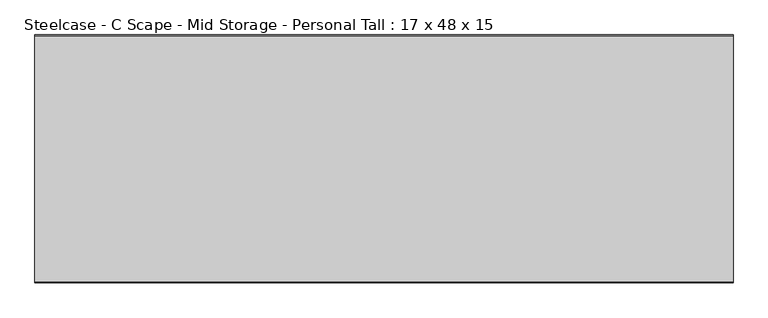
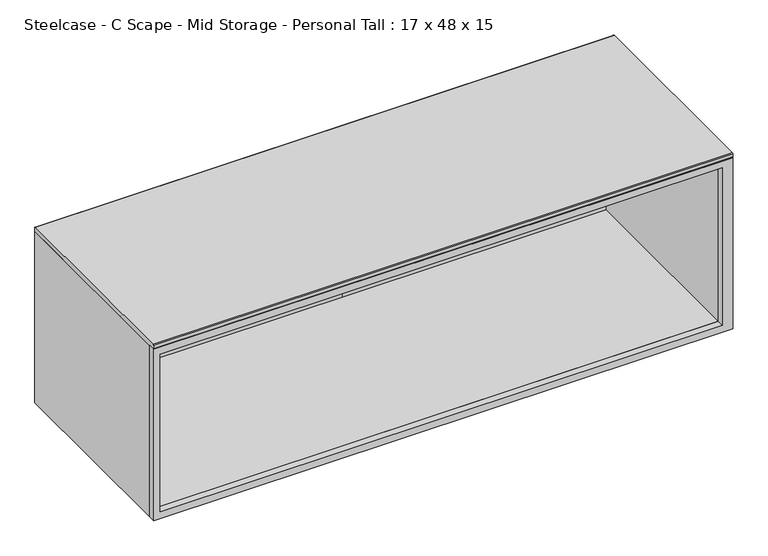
"""IFC4 building model written with IfcOpenShell, lengths in millimetres: furniture geometry, Steelcase - C Scape - Mid Storage - Personal Tall : 17 x 48 x 15."""

from ifc_helpers import new_model, si_unit, point, frame, frame_2d, origin, place, context, project, spatial, polyline, circle_curve, trimmed, segment, composite_curve, outline, extrude, source, transform, mapped, element, save


def steelcase_c_scape_mid_storage_personal_tall_17_x_48_x_15_5570ab6a(model_context):
    return source(origin(), model_context, "Body", "SweptSolid", [
        extrude(outline(polyline([(1219.2, 1219.2), (1219.2, 0.0), (838.2, 0.0), (838.2, 1219.2), (1219.2, 1219.2)]), holes=[polyline([(1203.9092, 1197.102), (853.4399855, 1197.102), (853.4399855, 13.437709), (1203.9092, 13.437709), (1203.9092, 1197.102)])]), frame((0.0, -216.535, 0.0), z_axis=(0.0, 1.0, 0.0), x_axis=(0.0, 0.0, 1.0)), (0.0, 0.0, 1.0), 14.3764481),
        extrude(outline(polyline([(1197.102, 207.0105809), (1197.102, -187.7821039), (13.437709, -187.7821039), (13.437709, 207.0105809), (1197.102, 207.0105809)])), frame((0.0, 0.0, 1203.9600145), z_axis=(0.0, 0.0, 1.0), x_axis=(1.0, 0.0, 0.0)), (0.0, 0.0, 1.0), 15.2399855),
        extrude(outline(polyline([(1197.102, 207.0105809), (1197.102, -202.1585519), (13.437709, -202.1585519), (13.437709, 207.0105809), (1197.102, 207.0105809)])), frame((0.0, 0.0, 838.2), z_axis=(0.0, 0.0, 1.0), x_axis=(1.0, 0.0, 0.0)), (0.0, 0.0, 1.0), 15.2399855),
        extrude(outline(composite_curve([segment(polyline([(-215.265, 1229.36), (215.265, 1229.36)]), True, "CONTINUOUS"), segment(trimmed(circle_curve(frame_2d((215.265, 1228.09)), 1.27), [point((215.265, 1229.36))], [point((216.535, 1228.09))], False, "CARTESIAN"), True, "CONTINUOUS"), segment(polyline([(216.535, 1228.09), (216.535, 1220.47)]), True, "CONTINUOUS"), segment(trimmed(circle_curve(frame_2d((215.265, 1220.47)), 1.27), [point((216.535, 1220.47))], [point((215.265, 1219.2))], False, "CARTESIAN"), True, "CONTINUOUS"), segment(polyline([(215.265, 1219.2), (-215.265, 1219.2)]), True, "CONTINUOUS"), segment(trimmed(circle_curve(frame_2d((-215.265, 1220.47)), 1.27), [point((-215.265, 1219.2))], [point((-216.535, 1220.47))], False, "CARTESIAN"), True, "CONTINUOUS"), segment(polyline([(-216.535, 1220.47), (-216.535, 1228.09)]), True, "CONTINUOUS"), segment(trimmed(circle_curve(frame_2d((-215.265, 1228.09)), 1.27), [point((-216.535, 1228.09))], [point((-215.265, 1229.36))], False, "CARTESIAN"), True, "CONTINUOUS")], self_intersect=False)), frame((0.0, 0.0, 0.0), z_axis=(1.0, 0.0, 0.0), x_axis=(0.0, 1.0, 0.0)), (0.0, 0.0, 1.0), 1219.2),
        extrude(outline(polyline([(13.437709, -202.1585519), (0.0, -202.1585519), (0.0, 216.535), (1219.2, 216.535), (1219.2, -202.1585519), (1197.102, -202.1585519), (1197.102, 207.0105809), (640.8892922, 207.0105809), (13.437709, 207.0105809), (13.437709, -202.1585519)])), frame((0.0, 0.0, 838.2), z_axis=(0.0, 0.0, 1.0), x_axis=(1.0, 0.0, 0.0)), (0.0, 0.0, 1.0), 381.0),
    ])


if __name__ == "__main__":
    model = new_model("IFC4")
    model_context = context("Model", 3, world=origin())
    ifc_project = project(units=[si_unit("LENGTHUNIT", "METRE", prefix="MILLI")], contexts=[model_context])
    site = spatial("IfcSite", under=ifc_project)
    building = spatial("IfcBuilding", under=site)
    placement = place(None, origin())
    steelcase_c_scape_mid_storage_personal_tall_17_x_48_x_15_shape = steelcase_c_scape_mid_storage_personal_tall_17_x_48_x_15_5570ab6a(model_context)
    element("IfcFurniture", 1, ObjectType="Steelcase - C Scape - Mid Storage - Personal Tall : 17 x 48 x 15", at=placement, inside=building, context=model_context, shape_type="MappedRepresentation", body=[
        mapped(steelcase_c_scape_mid_storage_personal_tall_17_x_48_x_15_shape, transform((0.0, 0.0, 0.0), x_axis=(1.0, 0.0, 0.0), y_axis=(0.0, 1.0, 0.0), z_axis=(0.0, 0.0, 1.0))),
    ])
    save(model, "model.ifc")
